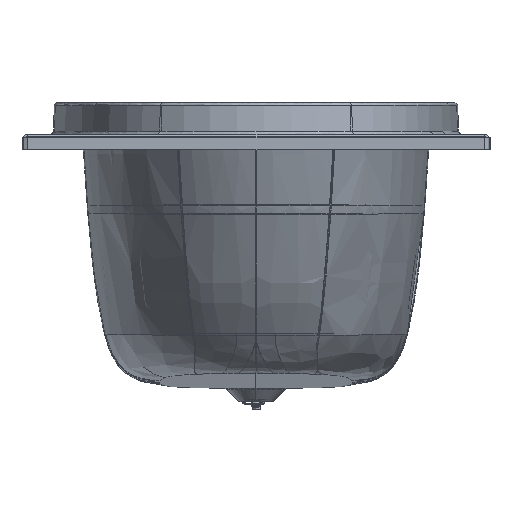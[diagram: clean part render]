
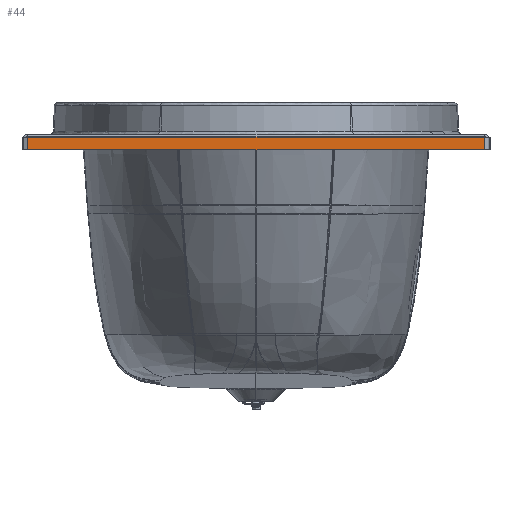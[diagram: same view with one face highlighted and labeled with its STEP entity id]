
A CAD part, left-side view. The second image highlights one B-rep face of the part: STEP entity #44.
In plain terms, the highlighted planar face has unit normal (-1, 0, 0).
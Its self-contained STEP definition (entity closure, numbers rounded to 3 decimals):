
#44=ADVANCED_FACE('',(#656),#9043,.T.);
#656=FACE_OUTER_BOUND('',#1269,.T.);
#1269=EDGE_LOOP('',(#1926,#1927,#1928,#1929));
#1926=ORIENTED_EDGE('',*,*,#4865,.T.);
#1927=ORIENTED_EDGE('',*,*,#4852,.F.);
#1928=ORIENTED_EDGE('',*,*,#4862,.F.);
#1929=ORIENTED_EDGE('',*,*,#4866,.T.);
#4852=EDGE_CURVE('',#7810,#7811,#6765,.T.);
#4862=EDGE_CURVE('',#7826,#7810,#6775,.T.);
#4865=EDGE_CURVE('',#7827,#7811,#6776,.T.);
#4866=EDGE_CURVE('',#7826,#7827,#6777,.T.);
#6765=B_SPLINE_CURVE_WITH_KNOTS('',1,(#28711,#28712),.UNSPECIFIED.,.F.,
 .F.,(2,2),(-732.,0.),.UNSPECIFIED.);
#6775=B_SPLINE_CURVE_WITH_KNOTS('',1,(#28731,#28732),.UNSPECIFIED.,.F.,
 .F.,(2,2),(0.,20.),.UNSPECIFIED.);
#6776=B_SPLINE_CURVE_WITH_KNOTS('',1,(#28739,#28740),.UNSPECIFIED.,.F.,
 .F.,(2,2),(0.,20.),.UNSPECIFIED.);
#6777=B_SPLINE_CURVE_WITH_KNOTS('',1,(#28741,#28742),.UNSPECIFIED.,.F.,
 .F.,(2,2),(0.,732.),.UNSPECIFIED.);
#7810=VERTEX_POINT('',#28281);
#7811=VERTEX_POINT('',#28282);
#7826=VERTEX_POINT('',#28297);
#7827=VERTEX_POINT('',#28298);
#9043=PLANE('',#9363);
#9363=AXIS2_PLACEMENT_3D('',#9830,#9596,$);
#9596=DIRECTION('',(-1.,0.,0.));
#9830=CARTESIAN_POINT('',(-851.168,-439.432,185.94));
#28281=CARTESIAN_POINT('',(-851.168,-366.172,163.88));
#28282=CARTESIAN_POINT('',(-851.168,365.828,163.88));
#28297=CARTESIAN_POINT('',(-851.168,-366.172,183.88));
#28298=CARTESIAN_POINT('',(-851.168,365.828,183.88));
#28711=CARTESIAN_POINT('',(-851.168,-366.172,163.88));
#28712=CARTESIAN_POINT('',(-851.168,365.828,163.88));
#28731=CARTESIAN_POINT('',(-851.168,-366.172,183.88));
#28732=CARTESIAN_POINT('',(-851.168,-366.172,163.88));
#28739=CARTESIAN_POINT('',(-851.168,365.828,183.88));
#28740=CARTESIAN_POINT('',(-851.168,365.828,163.88));
#28741=CARTESIAN_POINT('',(-851.168,-366.172,183.88));
#28742=CARTESIAN_POINT('',(-851.168,365.828,183.88));
